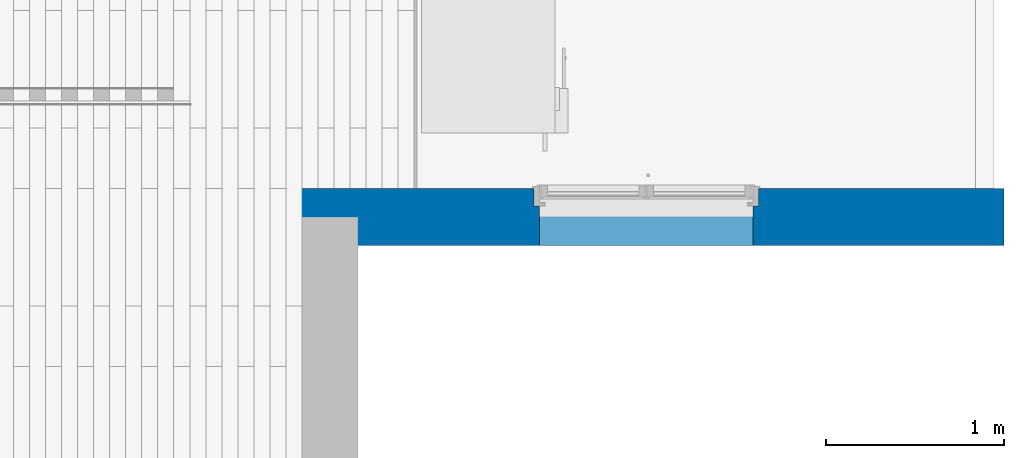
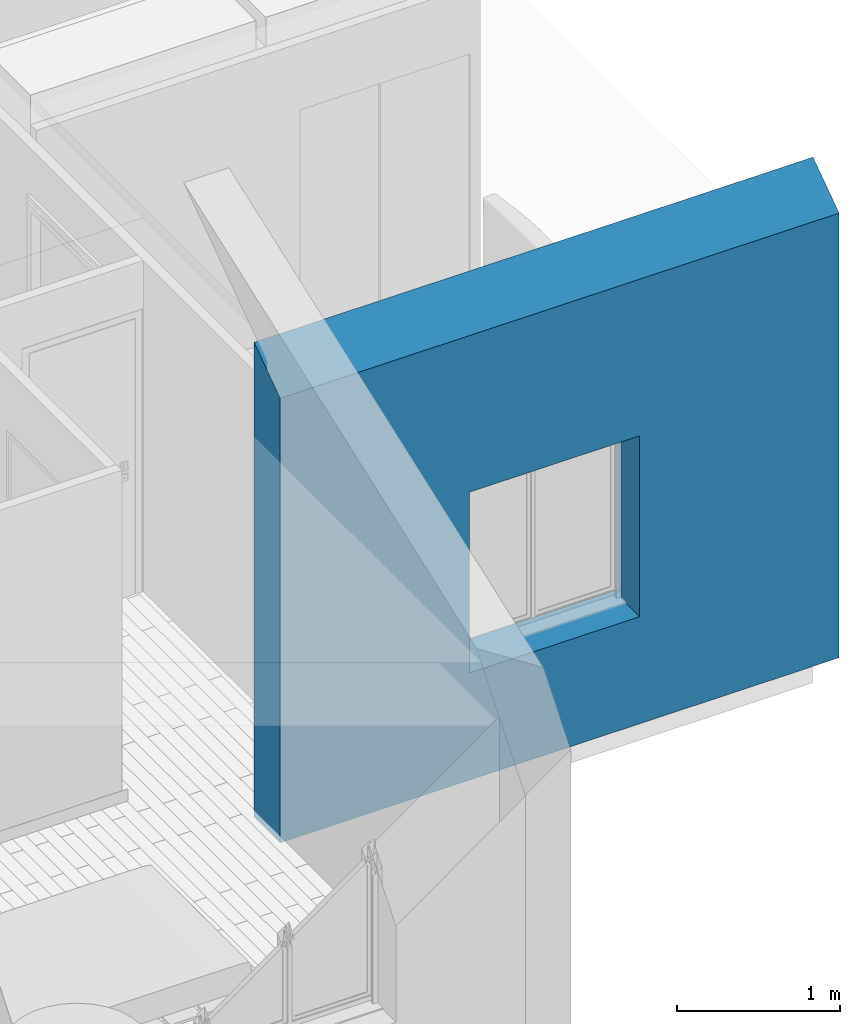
# One storey, part 28 of 61: 1 wall, 1 opening.
"""IFC2X3 building model written with IfcOpenShell, lengths in metres."""

import ifcopenshell
import ifcopenshell.guid

model = None  # the IFC model being written
_history = None  # IfcOwnerHistory: only IFC2X3 demands one
_inside = {}  # id of a spatial element -> (the spatial element, [elements in it])
_under = {}  # id of a project, library or spatial element -> (it, [spatial elements below it])
_declared = {}  # id of a project -> (the project, [libraries it declares])
_typed = {}  # id of a type object -> (the type object, [elements of that type])
_made_of = {}  # id of a material, layer set ... -> (it, [elements and type objects made of it])


def new_model(schema):
    """Start an empty IFC model of exactly this schema.

    Asked for "IFC4X3", IfcOpenShell would pick the latest addendum, in which some entities
    have other attributes; the version numbers below select the first issue.
    IFC2X3 requires an IfcOwnerHistory on every rooted entity: one is made here for all.
    """
    global model, _history
    if schema == "IFC4X3":
        model = ifcopenshell.file(schema_version=(4, 3, 0, 0))
    else:
        model = ifcopenshell.file(schema=schema)
    _inside.clear()
    _under.clear()
    _declared.clear()
    _typed.clear()
    _made_of.clear()
    _history = None
    if model.schema == "IFC2X3":
        org = make("IfcOrganization", Name="unknown")
        user = make(
            "IfcPersonAndOrganization",
            ThePerson=make("IfcPerson", FamilyName="unknown"),
            TheOrganization=org,
        )
        app = make(
            "IfcApplication",
            ApplicationDeveloper=org,
            Version="unknown",
            ApplicationFullName="unknown",
            ApplicationIdentifier="unknown",
        )
        _history = make(
            "IfcOwnerHistory",
            OwningUser=user,
            OwningApplication=app,
            ChangeAction="ADDED",
            CreationDate=0,
        )
    return model


def make(cls, **values):
    """One entity of the class cls with the attributes given. An attribute that is None is left unset."""
    return model.create_entity(
        cls, **{name: value for name, value in values.items() if value is not None}
    )


def entity(cls, *values):
    """Any entity or typed value of the class cls, its attributes in the order of the schema. None: left unset."""
    e = model.create_entity(cls)
    for i, value in enumerate(values):
        if value is not None:
            e[i] = value
    return e


def rooted(cls, **values):
    """An entity with a GlobalId (a new one), such as an element, a storey or a relation."""
    return make(cls, GlobalId=ifcopenshell.guid.new(), OwnerHistory=_history, **values)


def si_unit(unit_type, name, prefix=None):
    """IfcSIUnit, for example si_unit("LENGTHUNIT", "METRE", prefix="MILLI")."""
    return make("IfcSIUnit", UnitType=unit_type, Prefix=prefix, Name=name)


def converted_unit(unit_type, name, factor, base, dimensions=None, offset=None):
    """IfcConversionBasedUnit, such as the inch: factor (a typed value) times the base unit."""
    return make(
        "IfcConversionBasedUnit"
        if offset is None
        else "IfcConversionBasedUnitWithOffset",
        ConversionOffset=offset,
        Dimensions=None
        if dimensions is None
        else entity("IfcDimensionalExponents", *dimensions),
        UnitType=unit_type,
        Name=name,
        ConversionFactor=make(
            "IfcMeasureWithUnit", ValueComponent=factor, UnitComponent=base
        ),
    )


def derived_unit(unit_type, elements):
    """IfcDerivedUnit: a product of units, each with its exponent."""
    return make(
        "IfcDerivedUnit",
        Elements=[
            make("IfcDerivedUnitElement", Unit=unit, Exponent=power)
            for unit, power in elements
        ],
        UnitType=unit_type,
    )


def assignment(units):
    """IfcUnitAssignment: the units of a project."""
    return None if units is None else make("IfcUnitAssignment", Units=units)


def point(xyz):
    """IfcCartesianPoint."""
    return None if xyz is None else make("IfcCartesianPoint", Coordinates=xyz)


def direction(xyz):
    """IfcDirection."""
    return None if xyz is None else make("IfcDirection", DirectionRatios=xyz)


def frame(location, z_axis=None, x_axis=None):
    """IfcAxis2Placement3D, a coordinate frame: its origin and axes. An axis left out is left unset."""
    return make(
        "IfcAxis2Placement3D",
        Location=point(location),
        Axis=direction(z_axis),
        RefDirection=direction(x_axis),
    )


def frame_2d(location, x_axis=None):
    """IfcAxis2Placement2D, a coordinate frame in the plane: its origin and x axis."""
    return make(
        "IfcAxis2Placement2D", Location=point(location), RefDirection=direction(x_axis)
    )


def origin():
    """The frame at (0, 0, 0) with its axes left unset."""
    return frame((0.0, 0.0, 0.0))


def place(relative_to, where):
    """IfcLocalPlacement: puts the frame where relative to a parent placement (None: the world)."""
    return make(
        "IfcLocalPlacement", PlacementRelTo=relative_to, RelativePlacement=where
    )


def context(
    kind, dimensions, precision=None, world=None, true_north=None, identifier=None
):
    """IfcGeometricRepresentationContext, for example the 3D "Model" context."""
    return make(
        "IfcGeometricRepresentationContext",
        ContextIdentifier=identifier,
        ContextType=kind,
        CoordinateSpaceDimension=dimensions,
        Precision=precision,
        WorldCoordinateSystem=world,
        TrueNorth=true_north,
    )


def subcontext(parent, identifier, kind, view, scale=None):
    """IfcGeometricRepresentationSubContext, for example "Body" below "Model"."""
    return make(
        "IfcGeometricRepresentationSubContext",
        ContextIdentifier=identifier,
        ContextType=kind,
        ParentContext=parent,
        TargetScale=scale,
        TargetView=view,
    )


def project(units=None, contexts=None):
    """IfcProject with its units and contexts."""
    return rooted(
        "IfcProject",
        Name="project",
        RepresentationContexts=contexts,
        UnitsInContext=assignment(units),
    )


def spatial(cls, under=None, at=None, **own):
    """A site, building, storey or space (cls), placed at a placement, below another one or the project."""
    s = rooted(cls, ObjectPlacement=at, **own)
    if under is not None:
        _under.setdefault(under.id(), (under, []))[1].append(s)
    return s


def polyline(points):
    """IfcPolyline through the points."""
    return make("IfcPolyline", Points=[point(p) for p in points])


def profile(cls, at=None, kind="AREA", **sizes):
    """A parametric profile (cls). Its sizes go by their IFC names, for example OverallWidth=200.0."""
    return make(cls, ProfileType=kind, Position=at, **sizes)


def rectangle(**sizes):
    """IfcRectangleProfileDef."""
    return profile("IfcRectangleProfileDef", **sizes)


def extrude(swept, where, along, depth):
    """IfcExtrudedAreaSolid: the profile swept, set in the frame where, extruded along a direction by depth."""
    return make(
        "IfcExtrudedAreaSolid",
        SweptArea=swept,
        Position=where,
        ExtrudedDirection=direction(along),
        Depth=depth,
    )


def clip(a, b, op="DIFFERENCE"):
    """IfcBooleanClippingResult: the solid a cut by the half space b."""
    return make(
        "IfcBooleanClippingResult", Operator=op, FirstOperand=a, SecondOperand=b
    )


def bounded_halfspace(plane, agree, where, boundary):
    """IfcPolygonalBoundedHalfSpace: a half space limited to a polygon's prism."""
    return make(
        "IfcPolygonalBoundedHalfSpace",
        BaseSurface=make("IfcPlane", Position=plane),
        AgreementFlag=agree,
        Position=where,
        PolygonalBoundary=boundary,
    )


def faces_of(points, faces, orient=None, outer=None):
    """IfcFace entities. A face is a list of loops; a loop is a list of indices into points, from 0.

    orient and outer hold one flag for each loop. By default every Orientation is true, the
    first loop of a face is its IfcFaceOuterBound and the others are IfcFaceBound.
    """
    made = []
    for i, loops in enumerate(faces):
        bounds = []
        for j, loop in enumerate(loops):
            is_outer = j == 0 if outer is None else outer[i][j]
            bounds.append(
                make(
                    "IfcFaceOuterBound" if is_outer else "IfcFaceBound",
                    Bound=make("IfcPolyLoop", Polygon=[points[k] for k in loop]),
                    Orientation=True if orient is None else orient[i][j],
                )
            )
        made.append(make("IfcFace", Bounds=bounds))
    return made


def faceted_brep(points, faces, orient=None, outer=None, voids=None):
    """IfcFacetedBrep: a solid bounded by flat faces; with voids (closed shells), ...WithVoids."""
    shared = [point(p) for p in points]
    hull = make("IfcClosedShell", CfsFaces=faces_of(shared, faces, orient, outer))
    if voids is None:
        return make("IfcFacetedBrep", Outer=hull)
    return make(
        "IfcFacetedBrepWithVoids",
        Outer=hull,
        Voids=[
            make(cls, CfsFaces=faces_of(shared, fs, o, b)) for cls, fs, o, b in voids
        ],
    )


def shape(context_of_items, identifier, shape_type, items):
    """IfcShapeRepresentation: the items that make up one representation, for example the "Body"."""
    return make(
        "IfcShapeRepresentation",
        ContextOfItems=context_of_items,
        RepresentationIdentifier=identifier,
        RepresentationType=shape_type,
        Items=items,
    )


def material(Name=None, Category=None):
    """IfcMaterial."""
    return make("IfcMaterial", Name=Name, Category=Category)


def layer(
    of_material, thickness, ventilated=None, Name=None, Category=None, Priority=None
):
    """IfcMaterialLayer: one layer of a wall or slab, of a material (None: an air gap)."""
    return make(
        "IfcMaterialLayer",
        Material=of_material,
        LayerThickness=thickness,
        IsVentilated=ventilated,
        Name=Name,
        Category=Category,
        Priority=Priority,
    )


def layer_set(layers, Name=None):
    """IfcMaterialLayerSet."""
    return make("IfcMaterialLayerSet", MaterialLayers=layers, LayerSetName=Name)


def layer_usage(for_layer_set, set_direction, sense, offset, extent=None):
    """IfcMaterialLayerSetUsage: how a layer set lies in its element."""
    return make(
        "IfcMaterialLayerSetUsage",
        ForLayerSet=for_layer_set,
        LayerSetDirection=set_direction,
        DirectionSense=sense,
        OffsetFromReferenceLine=offset,
        ReferenceExtent=extent,
    )


def made_of(thing, what):
    """Note that an element or type object is made of a material, layer set ...; save() writes the relation."""
    if what is not None:
        _made_of.setdefault(what.id(), (what, []))[1].append(thing)
    return thing


def type_object(cls, material=None, **own):
    """A type object (cls), such as IfcWallType, which elements share."""
    return made_of(rooted(cls, **own), material)


def element(
    cls,
    number,
    at=None,
    inside=None,
    cuts=None,
    type_object=None,
    material=None,
    context=None,
    identifier="Body",
    shape_type=None,
    held_by="IfcProductDefinitionShape",
    body=None,
    shapes=None,
    **own,
):
    """One element of the class cls, such as IfcWall. Its Tag is "e" and its number.

    at: its placement. inside: the storey or other place that contains it. cuts: it is an
    opening in that element (IfcRelVoidsElement). A single representation is given by context,
    identifier, shape_type and body (its items); several are given by shapes. held_by: the class
    of the entity that holds the representations. save() writes the other relations.
    """
    e = rooted(cls, Tag="e%d" % number, ObjectPlacement=at, **own)
    if body is not None:
        shapes = [shape(context, identifier, shape_type, body)]
    if shapes is not None:
        e.Representation = make(held_by, Representations=shapes)
    if inside is not None:
        _inside.setdefault(inside.id(), (inside, []))[1].append(e)
    if cuts is not None:
        rooted(
            "IfcRelVoidsElement", RelatingBuildingElement=cuts, RelatedOpeningElement=e
        )
    if type_object is not None:
        _typed.setdefault(type_object.id(), (type_object, []))[1].append(e)
    return made_of(e, material)


def aggregate(whole, parts):
    """IfcRelAggregates: a whole, such as a stair, and the parts it consists of."""
    return rooted("IfcRelAggregates", RelatingObject=whole, RelatedObjects=parts)


def save(model, path):
    """Write the relations noted so far, then the file.

    IfcRelAggregates (storeys below a building ...), IfcRelContainedInSpatialStructure (elements
    in a storey), IfcRelDefinesByType, IfcRelAssociatesMaterial and IfcRelDeclares: one each for
    every whole, place, type object, material and project.
    """
    for whole, parts in _under.values():
        aggregate(whole, parts)
    for where, things in _inside.values():
        rooted(
            "IfcRelContainedInSpatialStructure",
            RelatedElements=things,
            RelatingStructure=where,
        )
    for kind, things in _typed.values():
        rooted("IfcRelDefinesByType", RelatedObjects=things, RelatingType=kind)
    for what, things in _made_of.values():
        rooted("IfcRelAssociatesMaterial", RelatedObjects=things, RelatingMaterial=what)
    for by, libraries in _declared.values():
        rooted("IfcRelDeclares", RelatingContext=by, RelatedDefinitions=libraries)
    model.write(path)


model = new_model("IFC2X3")

# Units and contexts
model_context = context("Model", 3, precision=1e-05, world=origin(), true_north=direction((6.12303176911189e-17, 1.0)))
body_context = subcontext(model_context, "Body", "Model", "MODEL_VIEW")
ifc_project = project(units=[si_unit("LENGTHUNIT", "METRE"), si_unit("AREAUNIT", "SQUARE_METRE"), si_unit("VOLUMEUNIT", "CUBIC_METRE"), converted_unit("PLANEANGLEUNIT", "DEGREE", entity("IfcRatioMeasure", 0.0174532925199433), si_unit("PLANEANGLEUNIT", "RADIAN"), dimensions=[0, 0, 0, 0, 0, 0, 0]), si_unit("MASSUNIT", "GRAM", prefix="KILO"), derived_unit("MASSDENSITYUNIT", [(si_unit("MASSUNIT", "GRAM", prefix="KILO"), 1), (si_unit("LENGTHUNIT", "METRE"), -3)]), si_unit("TIMEUNIT", "SECOND"), si_unit("FREQUENCYUNIT", "HERTZ"), si_unit("THERMODYNAMICTEMPERATUREUNIT", "DEGREE_CELSIUS"), derived_unit("THERMALTRANSMITTANCEUNIT", [(si_unit("MASSUNIT", "GRAM", prefix="KILO"), 1), (si_unit("THERMODYNAMICTEMPERATUREUNIT", "KELVIN"), -1), (si_unit("TIMEUNIT", "SECOND"), -3)]), derived_unit("VOLUMETRICFLOWRATEUNIT", [(si_unit("LENGTHUNIT", "METRE"), 3), (si_unit("TIMEUNIT", "SECOND"), -1)]), si_unit("ELECTRICCURRENTUNIT", "AMPERE"), si_unit("ELECTRICVOLTAGEUNIT", "VOLT"), si_unit("POWERUNIT", "WATT"), si_unit("FORCEUNIT", "NEWTON", prefix="KILO"), si_unit("ILLUMINANCEUNIT", "LUX"), si_unit("LUMINOUSFLUXUNIT", "LUMEN"), si_unit("LUMINOUSINTENSITYUNIT", "CANDELA"), derived_unit("USERDEFINED", [(si_unit("MASSUNIT", "GRAM", prefix="KILO"), -1), (si_unit("LENGTHUNIT", "METRE"), -2), (si_unit("TIMEUNIT", "SECOND"), 3), (si_unit("LUMINOUSFLUXUNIT", "LUMEN"), 1)]), derived_unit("LINEARVELOCITYUNIT", [(si_unit("LENGTHUNIT", "METRE"), 1), (si_unit("TIMEUNIT", "SECOND"), -1)]), si_unit("PRESSUREUNIT", "PASCAL"), derived_unit("USERDEFINED", [(si_unit("LENGTHUNIT", "METRE"), -2), (si_unit("MASSUNIT", "GRAM", prefix="KILO"), 1), (si_unit("TIMEUNIT", "SECOND"), -2)])], contexts=[model_context])

# Site, building, storey
site_placement = place(None, origin())
site = spatial("IfcSite", under=ifc_project, at=site_placement, Name="Surface", CompositionType="ELEMENT")
building_placement = place(site_placement, origin())
building = spatial("IfcBuilding", under=site, at=building_placement, CompositionType="ELEMENT")
storey_placement = place(building_placement, frame((0.0, 0.0, 2.82)))
storey = spatial("IfcBuildingStorey", under=building, at=storey_placement, Name="ETAGE", CompositionType="ELEMENT", Elevation=2.82)

# Wall, opening
ifc_material_1 = material(Name="Enduit blanc cassé2")
ifc_layer_1 = layer(ifc_material_1, 0.02)
ifc_material_2 = material(Name="Parpaing")
ifc_layer_2 = layer(ifc_material_2, 0.2)
ifc_material_3 = material(Name="Isolant")
ifc_layer_3 = layer(ifc_material_3, 0.1)
ifc_layer_set = layer_set([ifc_layer_1, ifc_layer_2, ifc_layer_3], Name="Mur de base:Ext. Parpaing 20 + Isolant 10 enduit blanc cassé")
ifc_layer_usage = layer_usage(ifc_layer_set, "AXIS2", "NEGATIVE", 0.16)
wall_type = type_object("IfcWallType", Name="Mur de base:Ext. Parpaing 20 + Isolant 10 enduit blanc cassé", PredefinedType="STANDARD", material=ifc_layer_set)
wall_placement = place(storey_placement, frame((90.9950487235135, 84.0875239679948, 0.0), z_axis=(0.0, 0.0, 1.0), x_axis=(-1.0, 0.0, 0.0)))
wall = element("IfcWallStandardCase", 1, at=wall_placement, inside=storey, type_object=wall_type, material=ifc_layer_usage, Name="Mur de base:Ext. Parpaing 20 + Isolant 10 enduit blanc cassé", ObjectType="Mur de base:Ext. Parpaing 20 + Isolant 10 enduit blanc cassé", context=body_context, shape_type="Clipping", body=[
    clip(extrude(rectangle(XDim=3.94826294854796, YDim=0.319999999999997, at=frame_2d((1.97413147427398, -4.02455846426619e-16), x_axis=(-1.0, 0.0))), origin(), (0.0, 0.0, 1.0), 3.54406641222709), bounded_halfspace(frame((0.0, -0.159999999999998, 3.54406641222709), z_axis=(0.0, 0.573576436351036, 0.819152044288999), x_axis=(-1.0, 0.0, 0.0)), False, frame((0.0, -0.159999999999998, 3.54406641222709)), polyline([(0.0, 0.0), (3.94826294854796, 0.0), (3.94826294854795, 0.319999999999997), (0.0, 0.319999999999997), (0.0, 0.0)]))),
])
opening_placement = place(wall_placement, frame((2.65000000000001, 0.460000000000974, 0.799999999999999), z_axis=(0.0, 0.0, 1.0), x_axis=(-1.0, 0.0, 0.0)))
element("IfcOpeningElement", 2, at=opening_placement, cuts=wall, Name="Mur de base:Ext. Parpaing 20 + Isolant 10 enduit blanc cassé", ObjectType="Opening", context=body_context, shape_type="Brep", body=[
    faceted_brep([(0.0399999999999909, 0.0, 1.35), (1.24, 0.0, 1.35), (1.24, 0.520000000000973, 1.35), (0.0399999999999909, 0.520000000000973, 1.35), (1.24, 0.0, 0.0), (0.0399999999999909, 0.0, 0.0), (0.0399999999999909, 0.520000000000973, 0.0), (0.00999999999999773, 0.520000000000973, 0.0), (0.00999999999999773, 0.620000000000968, 0.0), (0.0399999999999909, 0.620000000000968, 0.0), (0.0400000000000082, 0.72000000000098, 0.0), (1.24, 0.720000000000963, 0.0), (1.24, 0.620000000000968, 0.0), (1.27000000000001, 0.620000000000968, 0.0), (1.27000000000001, 0.520000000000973, 0.0), (1.24, 0.520000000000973, 0.0), (0.0400000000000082, 0.72000000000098, 1.35), (1.24, 0.720000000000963, 1.35), (0.0100000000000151, 0.620000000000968, 1.38), (0.0, 0.620000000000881, 1.38000000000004), (0.0, 0.620000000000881, 1.59000000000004), (1.28000000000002, 0.620000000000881, 1.59000000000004), (1.28000000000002, 0.620000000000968, 1.38000000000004), (1.27000000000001, 0.620000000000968, 1.38), (1.24, 0.620000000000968, 1.35), (0.0400000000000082, 0.620000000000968, 1.35), (0.00999999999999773, 0.520000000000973, 1.38000000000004), (1.27000000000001, 0.520000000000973, 1.38000000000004), (1.28000000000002, 0.520000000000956, 1.38000000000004), (1.28000000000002, 0.520000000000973, 1.59000000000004), (0.0, 0.520000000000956, 1.59000000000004), (0.0, 0.520000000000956, 1.38000000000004)], [[[0, 1, 2, 3]], [[4, 5, 6, 7, 8, 9, 10, 11, 12, 13, 14, 15]], [[1, 0, 5, 4]], [[5, 0, 3, 6]], [[16, 17, 11, 10]], [[1, 4, 15, 2]], [[9, 8, 18, 19, 20, 21, 22, 23, 13, 12, 24, 25]], [[8, 7, 26, 18]], [[7, 6, 3, 2, 15, 14, 27, 28, 29, 30, 31, 26]], [[13, 23, 27, 14]], [[31, 30, 20, 19]], [[28, 22, 21, 29]], [[31, 19, 18, 26]], [[20, 30, 29, 21]], [[22, 28, 27, 23]], [[11, 17, 24, 12]], [[16, 10, 9, 25]], [[17, 16, 25, 24]]]),
])

save(model, "model.ifc")
